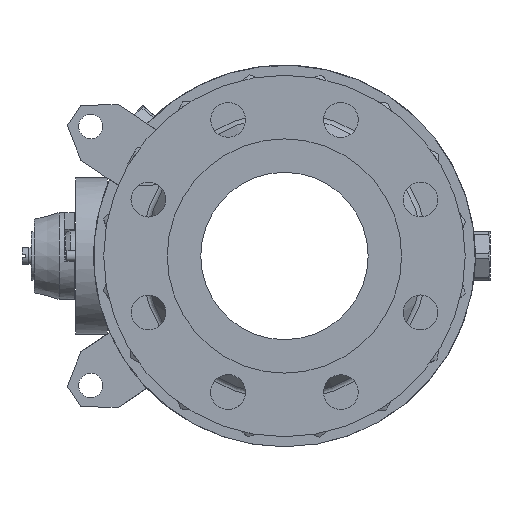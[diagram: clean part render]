
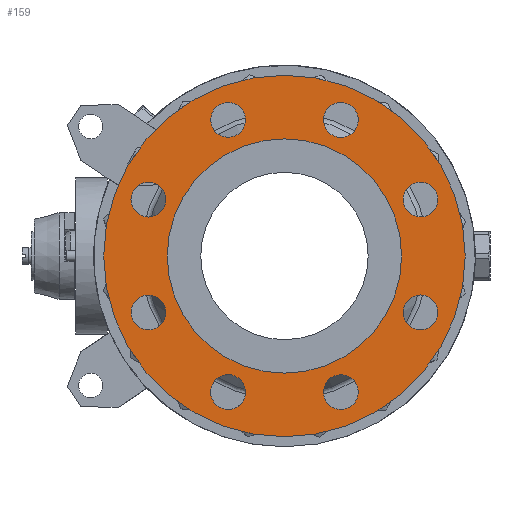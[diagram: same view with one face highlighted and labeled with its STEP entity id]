
A CAD part, left-side view. The second image highlights one B-rep face of the part: STEP entity #159.
In plain terms, the highlighted planar face has unit normal (-1, 0, 0).
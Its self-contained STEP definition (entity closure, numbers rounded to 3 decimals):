
#159=ADVANCED_FACE('',(#4551,#4553,#4555,#4557,#4559,#4561,#4563,#4565,#4567,#4569),
#4571,.T.);
#4551=FACE_BOUND('',#4552,.T.);
#4552=EDGE_LOOP('',(#11633));
#4553=FACE_BOUND('',#4554,.T.);
#4554=EDGE_LOOP('',(#11634));
#4555=FACE_BOUND('',#4556,.T.);
#4556=EDGE_LOOP('',(#11635));
#4557=FACE_BOUND('',#4558,.T.);
#4558=EDGE_LOOP('',(#11636));
#4559=FACE_BOUND('',#4560,.T.);
#4560=EDGE_LOOP('',(#11637));
#4561=FACE_BOUND('',#4562,.T.);
#4562=EDGE_LOOP('',(#11638));
#4563=FACE_BOUND('',#4564,.T.);
#4564=EDGE_LOOP('',(#11639));
#4565=FACE_BOUND('',#4566,.T.);
#4566=EDGE_LOOP('',(#11640));
#4567=FACE_BOUND('',#4568,.T.);
#4568=EDGE_LOOP('',(#11641));
#4569=FACE_OUTER_BOUND('',#4570,.T.);
#4570=EDGE_LOOP('',(#11642));
#4571=PLANE('',#4572);
#4572=AXIS2_PLACEMENT_3D('',#4573,#4574,#4575);
#4573=CARTESIAN_POINT('',(-187.5,0.,0.));
#4574=DIRECTION('',(-1.,0.,0.));
#4575=DIRECTION('',(0.,0.,-1.));
#11633=ORIENTED_EDGE('',*,*,#17437,.T.);
#11634=ORIENTED_EDGE('',*,*,#17438,.T.);
#11635=ORIENTED_EDGE('',*,*,#17439,.T.);
#11636=ORIENTED_EDGE('',*,*,#17440,.T.);
#11637=ORIENTED_EDGE('',*,*,#17433,.T.);
#11638=ORIENTED_EDGE('',*,*,#17441,.T.);
#11639=ORIENTED_EDGE('',*,*,#17442,.T.);
#11640=ORIENTED_EDGE('',*,*,#17443,.T.);
#11641=ORIENTED_EDGE('',*,*,#17444,.T.);
#11642=ORIENTED_EDGE('',*,*,#17445,.F.);
#17433=EDGE_CURVE('',#19446,#19446,#19448,.T.);
#17437=EDGE_CURVE('',#19454,#19454,#19455,.F.);
#17438=EDGE_CURVE('',#19456,#19456,#19457,.F.);
#17439=EDGE_CURVE('',#19458,#19458,#19459,.F.);
#17440=EDGE_CURVE('',#19460,#19460,#19461,.F.);
#17441=EDGE_CURVE('',#19462,#19462,#19463,.F.);
#17442=EDGE_CURVE('',#19464,#19464,#19465,.F.);
#17443=EDGE_CURVE('',#19466,#19466,#19467,.F.);
#17444=EDGE_CURVE('',#19468,#19468,#19469,.F.);
#17445=EDGE_CURVE('',#19470,#19470,#19471,.T.);
#19446=VERTEX_POINT('',#23375);
#19448=CIRCLE('',#23379,87.5);
#19454=VERTEX_POINT('',#23396);
#19455=CIRCLE('',#23397,13.);
#19456=VERTEX_POINT('',#23401);
#19457=CIRCLE('',#23402,13.);
#19458=VERTEX_POINT('',#23406);
#19459=CIRCLE('',#23407,13.);
#19460=VERTEX_POINT('',#23411);
#19461=CIRCLE('',#23412,13.);
#19462=VERTEX_POINT('',#23416);
#19463=CIRCLE('',#23417,13.);
#19464=VERTEX_POINT('',#23421);
#19465=CIRCLE('',#23422,13.);
#19466=VERTEX_POINT('',#23426);
#19467=CIRCLE('',#23427,13.);
#19468=VERTEX_POINT('',#23431);
#19469=CIRCLE('',#23432,13.);
#19470=VERTEX_POINT('',#23436);
#19471=CIRCLE('',#23437,135.);
#23375=CARTESIAN_POINT('',(-187.5,0.,-87.5));
#23379=AXIS2_PLACEMENT_3D('',#23380,#23381,#23382);
#23380=CARTESIAN_POINT('',(-187.5,0.,0.));
#23381=DIRECTION('',(1.,0.,0.));
#23382=DIRECTION('',(0.,0.,-1.));
#23396=CARTESIAN_POINT('',(-187.5,-101.627,-55.095));
#23397=AXIS2_PLACEMENT_3D('',#23398,#23399,#23400);
#23398=CARTESIAN_POINT('',(-187.5,-101.627,-42.095));
#23399=DIRECTION('',(-1.,0.,0.));
#23400=DIRECTION('',(0.,0.,-1.));
#23401=CARTESIAN_POINT('',(-187.5,55.095,-101.627));
#23402=AXIS2_PLACEMENT_3D('',#23403,#23404,#23405);
#23403=CARTESIAN_POINT('',(-187.5,42.095,-101.627));
#23404=DIRECTION('',(-1.,0.,0.));
#23405=DIRECTION('',(0.,1.,0.));
#23406=CARTESIAN_POINT('',(-187.5,101.627,55.095));
#23407=AXIS2_PLACEMENT_3D('',#23408,#23409,#23410);
#23408=CARTESIAN_POINT('',(-187.5,101.627,42.095));
#23409=DIRECTION('',(-1.,0.,0.));
#23410=DIRECTION('',(0.,-0.,1.));
#23411=CARTESIAN_POINT('',(-187.5,-55.095,101.627));
#23412=AXIS2_PLACEMENT_3D('',#23413,#23414,#23415);
#23413=CARTESIAN_POINT('',(-187.5,-42.095,101.627));
#23414=DIRECTION('',(-1.,0.,0.));
#23415=DIRECTION('',(0.,-1.,-0.));
#23416=CARTESIAN_POINT('',(-187.5,32.903,110.819));
#23417=AXIS2_PLACEMENT_3D('',#23418,#23419,#23420);
#23418=CARTESIAN_POINT('',(-187.5,42.095,101.627));
#23419=DIRECTION('',(-1.,0.,0.));
#23420=DIRECTION('',(0.,-0.707,0.707));
#23421=CARTESIAN_POINT('',(-187.5,110.819,-32.903));
#23422=AXIS2_PLACEMENT_3D('',#23423,#23424,#23425);
#23423=CARTESIAN_POINT('',(-187.5,101.627,-42.095));
#23424=DIRECTION('',(-1.,0.,0.));
#23425=DIRECTION('',(0.,0.707,0.707));
#23426=CARTESIAN_POINT('',(-187.5,-32.903,-110.819));
#23427=AXIS2_PLACEMENT_3D('',#23428,#23429,#23430);
#23428=CARTESIAN_POINT('',(-187.5,-42.095,-101.627));
#23429=DIRECTION('',(-1.,0.,0.));
#23430=DIRECTION('',(0.,0.707,-0.707));
#23431=CARTESIAN_POINT('',(-187.5,-110.819,32.903));
#23432=AXIS2_PLACEMENT_3D('',#23433,#23434,#23435);
#23433=CARTESIAN_POINT('',(-187.5,-101.627,42.095));
#23434=DIRECTION('',(-1.,0.,0.));
#23435=DIRECTION('',(0.,-0.707,-0.707));
#23436=CARTESIAN_POINT('',(-187.5,0.,-135.));
#23437=AXIS2_PLACEMENT_3D('',#23438,#23439,#23440);
#23438=CARTESIAN_POINT('',(-187.5,0.,0.));
#23439=DIRECTION('',(1.,0.,0.));
#23440=DIRECTION('',(0.,0.,-1.));
